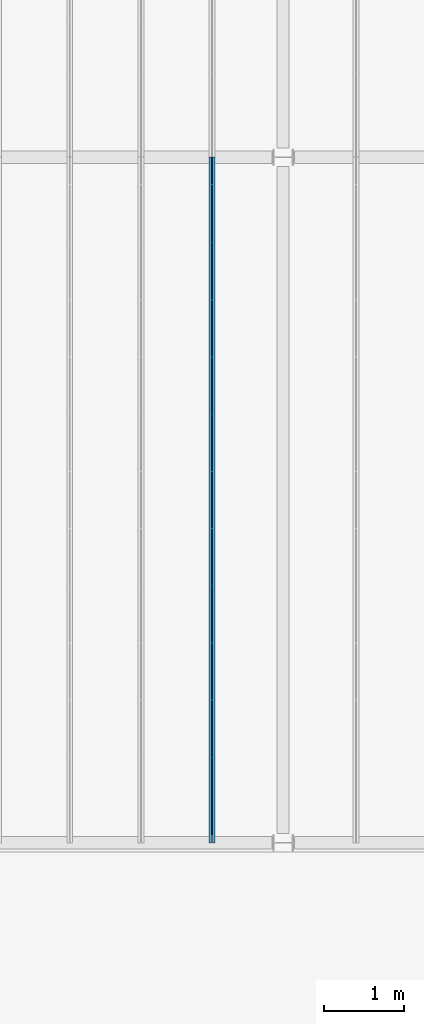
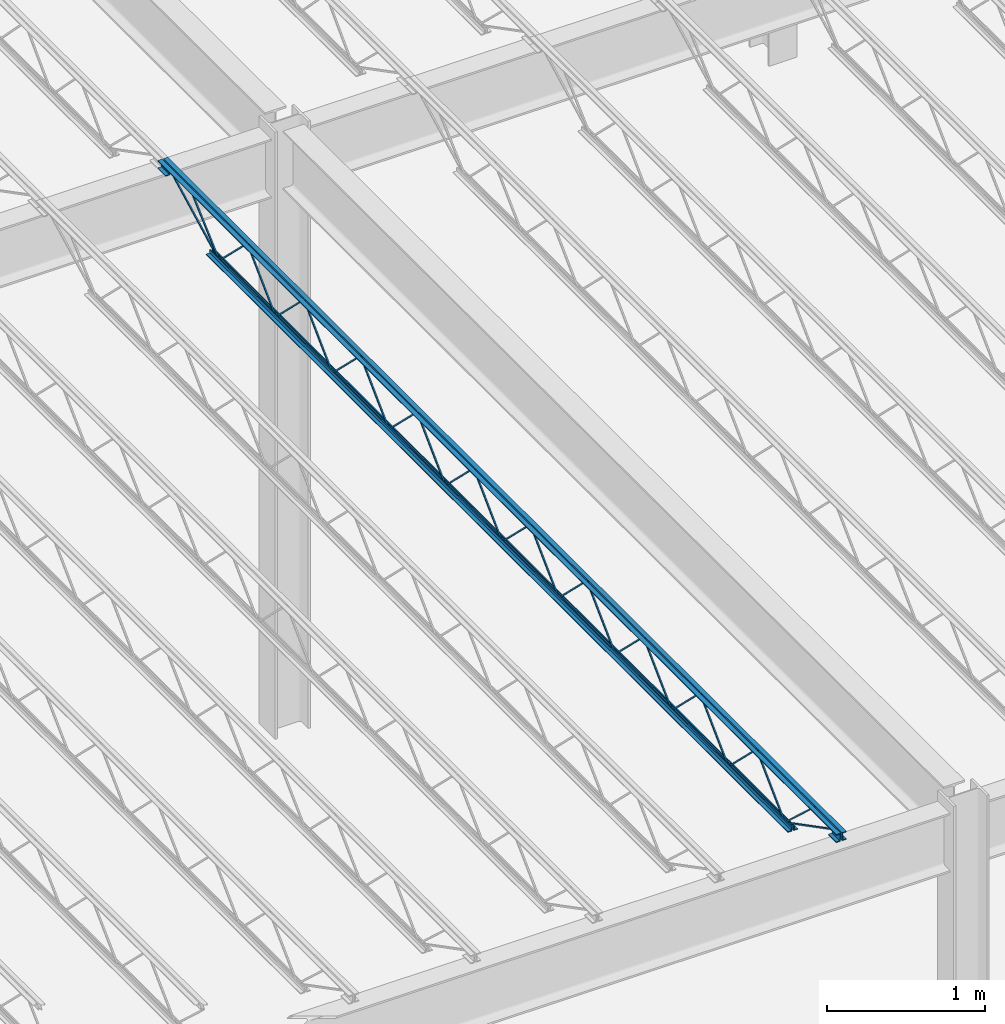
# One storey, part 39 of 119: 1 beam.
"""IFC2X3 building model written with IfcOpenShell, lengths in metres."""

from ifc_helpers import new_model, entity, si_unit, converted_unit, frame, origin, place, context, project, spatial, face_set, surface_model, element, save


model = new_model("IFC2X3")

# Units and contexts
model_context = context("Model", 3, precision=1e-09, world=origin())
plan_context = context("Plan", 3, precision=1e-09, world=origin())
ifc_project = project(units=[si_unit("LENGTHUNIT", "METRE"), si_unit("AREAUNIT", "SQUARE_METRE"), si_unit("VOLUMEUNIT", "CUBIC_METRE"), converted_unit("PLANEANGLEUNIT", "DEGREE", entity("IfcRatioMeasure", 0.01745329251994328), si_unit("PLANEANGLEUNIT", "RADIAN"), dimensions=[0, 0, 0, 0, 0, 0, 0]), si_unit("TIMEUNIT", "SECOND")], contexts=[model_context, plan_context])

# Site, building, storey
site_placement = place(None, origin())
site = spatial("IfcSite", under=ifc_project, at=site_placement, Name="Default", CompositionType="ELEMENT")
building_placement = place(site_placement, origin())
building = spatial("IfcBuilding", under=site, at=building_placement, CompositionType="ELEMENT")
storey_placement = place(building_placement, frame((0.0, 0.0, 4.570000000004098)))
storey = spatial("IfcBuildingStorey", under=building, at=storey_placement, Name="Second Floor", CompositionType="ELEMENT", Elevation=4.570000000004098)

# Beam
beam_placement = place(storey_placement, frame((-27.36550000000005, 10.04000000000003, 4.323999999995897), z_axis=(0.0, 0.0, 1.0), x_axis=(-1.0, 0.0, 0.0)))
element("IfcBeam", 1, at=beam_placement, inside=storey, Name="M_K-Series Bar Joist-Rod Web:14K1:14K1", ObjectType="M_K-Series Bar Joist-Rod Web:14K1", context=model_context, shape_type="SurfaceModel", body=[
    surface_model("IfcFaceBasedSurfaceModel", [(-0.03200000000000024, -2.141200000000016, 0.01110000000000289), (-0.04149999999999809, -2.141200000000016, 0.01110000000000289), (-0.04149999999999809, -2.141200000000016, 0.001600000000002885), (-0.03200000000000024, -2.141200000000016, 0.001600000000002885), (-0.04149999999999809, -2.139961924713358, 0.01110000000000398), (-0.03200000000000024, -2.139961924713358, 0.01110000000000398), (-0.04149999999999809, -2.136088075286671, 0.001600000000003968), (-0.04149999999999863, -1.785138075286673, 0.3449000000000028), (-0.04149999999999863, -1.782661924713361, 0.3449000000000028), (-0.04149999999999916, -1.431711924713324, 0.001600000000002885), (-0.04149999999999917, -1.426600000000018, 0.001600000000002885), (-0.04149999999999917, -1.426600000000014, 0.01110000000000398), (-0.04149999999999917, -1.427838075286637, 0.01110000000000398), (-0.04149999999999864, -1.778788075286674, 0.3544000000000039), (-0.04149999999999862, -1.78901192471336, 0.3544000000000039), (-0.03199999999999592, -2.136088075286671, 0.001600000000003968), (-0.03200000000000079, -1.785138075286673, 0.3449000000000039), (-0.03200000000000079, -1.782661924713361, 0.3449000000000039), (-0.03200000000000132, -1.431711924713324, 0.001600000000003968), (-0.03200000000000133, -1.426600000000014, 0.001600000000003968), (-0.03200000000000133, -1.426600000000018, 0.01110000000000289), (-0.03200000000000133, -1.427838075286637, 0.01110000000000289), (-0.03200000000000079, -1.778788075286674, 0.3544000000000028), (-0.03200000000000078, -1.78901192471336, 0.3544000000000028), (-0.03199999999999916, -2.855800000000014, 0.01110000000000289), (-0.04149999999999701, -2.855800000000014, 0.01110000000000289), (-0.04149999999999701, -2.855800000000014, 0.001600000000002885), (-0.03199999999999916, -2.855800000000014, 0.001600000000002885), (-0.04149999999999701, -2.85456192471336, 0.01110000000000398), (-0.03199999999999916, -2.85456192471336, 0.01110000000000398), (-0.04149999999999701, -2.850688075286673, 0.001600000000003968), (-0.04149999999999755, -2.499738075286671, 0.3449000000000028), (-0.04149999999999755, -2.497261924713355, 0.3449000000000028), (-0.04149999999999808, -2.146311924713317, 0.001600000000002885), (-0.04149999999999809, -2.141200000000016, 0.01110000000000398), (-0.04149999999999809, -2.14243807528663, 0.01110000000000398), (-0.04149999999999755, -2.493388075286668, 0.3544000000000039), (-0.04149999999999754, -2.503611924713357, 0.3544000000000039), (-0.03199999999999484, -2.850688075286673, 0.001600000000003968), (-0.0319999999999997, -2.499738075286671, 0.3449000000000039), (-0.0319999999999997, -2.497261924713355, 0.3449000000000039), (-0.03200000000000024, -2.146311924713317, 0.001600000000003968), (-0.03200000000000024, -2.141200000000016, 0.001600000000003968), (-0.03200000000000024, -2.14243807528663, 0.01110000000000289), (-0.03199999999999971, -2.493388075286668, 0.3544000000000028), (-0.0319999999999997, -2.503611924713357, 0.3544000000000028), (-0.03200000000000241, -3.570400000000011, 0.01110000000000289), (-0.04150000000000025, -3.570400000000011, 0.01110000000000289), (-0.04150000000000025, -3.570400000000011, 0.001600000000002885), (-0.03200000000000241, -3.570400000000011, 0.001600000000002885), (-0.04150000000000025, -3.569161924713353, 0.01110000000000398), (-0.03200000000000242, -3.569161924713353, 0.01110000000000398), (-0.04150000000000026, -3.565288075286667, 0.001600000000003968), (-0.04150000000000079, -3.214338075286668, 0.3449000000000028), (-0.04150000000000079, -3.211861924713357, 0.3449000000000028), (-0.04150000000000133, -2.86091192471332, 0.001600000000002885), (-0.04149999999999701, -2.855800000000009, 0.001600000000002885), (-0.04150000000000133, -2.855800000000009, 0.01110000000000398), (-0.04150000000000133, -2.857038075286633, 0.01110000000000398), (-0.0415000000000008, -3.20798807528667, 0.3544000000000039), (-0.04150000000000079, -3.218211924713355, 0.3544000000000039), (-0.03199999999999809, -3.565288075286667, 0.001600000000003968), (-0.03200000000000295, -3.214338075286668, 0.3449000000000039), (-0.03200000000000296, -3.211861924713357, 0.3449000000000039), (-0.03200000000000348, -2.86091192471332, 0.001600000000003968), (-0.03200000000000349, -2.855800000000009, 0.001600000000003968), (-0.03199999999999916, -2.855800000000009, 0.01110000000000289), (-0.03200000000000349, -2.857038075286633, 0.01110000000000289), (-0.03200000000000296, -3.20798807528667, 0.3544000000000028), (-0.03200000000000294, -3.218211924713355, 0.3544000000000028), (-0.03200000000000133, -4.285000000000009, 0.01110000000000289), (-0.04149999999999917, -4.285000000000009, 0.01110000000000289), (-0.04149999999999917, -4.285000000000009, 0.001600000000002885), (-0.03200000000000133, -4.285000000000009, 0.001600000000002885), (-0.04149999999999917, -4.283761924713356, 0.01110000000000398), (-0.03200000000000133, -4.283761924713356, 0.01110000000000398), (-0.04149999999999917, -4.279888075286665, 0.001600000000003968), (-0.0414999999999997, -3.928938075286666, 0.3449000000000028), (-0.04149999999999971, -3.92646192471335, 0.3449000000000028), (-0.04150000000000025, -3.575511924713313, 0.001600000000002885), (-0.04150000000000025, -3.570400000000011, 0.01110000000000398), (-0.04150000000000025, -3.571638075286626, 0.01110000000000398), (-0.04149999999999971, -3.922588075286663, 0.3544000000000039), (-0.0414999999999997, -3.932811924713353, 0.3544000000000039), (-0.031999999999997, -4.279888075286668, 0.001600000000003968), (-0.03200000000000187, -3.928938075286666, 0.3449000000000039), (-0.03200000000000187, -3.92646192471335, 0.3449000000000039), (-0.0320000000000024, -3.575511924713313, 0.001600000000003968), (-0.03200000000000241, -3.570400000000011, 0.001600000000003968), (-0.03200000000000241, -3.571638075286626, 0.01110000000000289), (-0.03200000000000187, -3.922588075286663, 0.3544000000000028), (-0.03200000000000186, -3.932811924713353, 0.3544000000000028), (-0.03200000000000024, -4.999600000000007, 0.01110000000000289), (-0.04149999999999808, -4.999600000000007, 0.01110000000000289), (-0.04149999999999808, -4.999600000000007, 0.001600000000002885), (-0.03200000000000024, -4.999600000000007, 0.001600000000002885), (-0.04149999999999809, -4.998361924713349, 0.01110000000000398), (-0.03200000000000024, -4.998361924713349, 0.01110000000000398), (-0.04149999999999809, -4.994488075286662, 0.001600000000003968), (-0.04149999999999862, -4.643538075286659, 0.3449000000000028), (-0.04149999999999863, -4.641061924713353, 0.3449000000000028), (-0.04149999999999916, -4.290111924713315, 0.001600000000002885), (-0.04149999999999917, -4.285000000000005, 0.001600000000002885), (-0.04149999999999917, -4.285000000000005, 0.01110000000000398), (-0.04149999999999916, -4.286238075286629, 0.01110000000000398), (-0.04149999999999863, -4.637188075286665, 0.3544000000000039), (-0.04149999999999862, -4.647411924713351, 0.3544000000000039), (-0.03199999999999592, -4.994488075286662, 0.001600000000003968), (-0.03200000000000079, -4.643538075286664, 0.3449000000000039), (-0.03200000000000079, -4.641061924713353, 0.3449000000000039), (-0.03200000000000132, -4.290111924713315, 0.001600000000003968), (-0.03200000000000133, -4.285000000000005, 0.001600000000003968), (-0.03200000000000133, -4.285000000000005, 0.01110000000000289), (-0.03200000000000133, -4.286238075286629, 0.01110000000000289), (-0.03200000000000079, -4.637188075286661, 0.3544000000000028), (-0.03200000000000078, -4.647411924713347, 0.3544000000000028), (-0.03200000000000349, -5.714200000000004, 0.01110000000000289), (-0.04150000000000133, -5.714200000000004, 0.01110000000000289), (-0.04150000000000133, -5.714200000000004, 0.001600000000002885), (-0.03200000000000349, -5.714200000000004, 0.001600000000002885), (-0.04150000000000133, -5.712961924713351, 0.01110000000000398), (-0.03200000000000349, -5.712961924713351, 0.01110000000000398), (-0.04149999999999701, -5.70908807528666, 0.001600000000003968), (-0.04149999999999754, -5.358138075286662, 0.3449000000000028), (-0.04149999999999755, -5.355661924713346, 0.3449000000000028), (-0.04149999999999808, -5.004711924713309, 0.001600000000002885), (-0.04150000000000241, -4.999600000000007, 0.01110000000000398), (-0.04150000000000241, -5.000838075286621, 0.01110000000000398), (-0.04150000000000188, -5.351788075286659, 0.3544000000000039), (-0.04150000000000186, -5.362011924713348, 0.3544000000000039), (-0.03199999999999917, -5.709088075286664, 0.001600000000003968), (-0.03200000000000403, -5.358138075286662, 0.3449000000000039), (-0.03200000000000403, -5.355661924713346, 0.3449000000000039), (-0.03200000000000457, -5.004711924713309, 0.001600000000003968), (-0.03200000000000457, -4.999600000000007, 0.001600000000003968), (-0.03200000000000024, -5.000838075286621, 0.01110000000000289), (-0.03199999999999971, -5.351788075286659, 0.3544000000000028), (-0.0319999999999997, -5.362011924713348, 0.3544000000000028), (-0.03200000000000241, -6.428800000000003, 0.01110000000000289), (-0.04150000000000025, -6.428800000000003, 0.01110000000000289), (-0.04150000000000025, -6.428800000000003, 0.001600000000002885), (-0.03200000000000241, -6.428800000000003, 0.001600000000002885), (-0.04150000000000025, -6.427561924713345, 0.01110000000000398), (-0.03200000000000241, -6.427561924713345, 0.01110000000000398), (-0.04150000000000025, -6.423688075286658, 0.001600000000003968), (-0.04150000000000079, -6.072738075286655, 0.3449000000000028), (-0.04150000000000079, -6.070261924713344, 0.3449000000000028), (-0.04150000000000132, -5.719311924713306, 0.001600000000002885), (-0.04150000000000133, -5.714200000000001, 0.001600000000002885), (-0.04150000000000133, -5.714200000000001, 0.01110000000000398), (-0.04150000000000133, -5.715438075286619, 0.01110000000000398), (-0.04150000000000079, -6.066388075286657, 0.3544000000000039), (-0.04150000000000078, -6.076611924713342, 0.3544000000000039), (-0.03199999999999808, -6.423688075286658, 0.001600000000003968), (-0.03200000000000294, -6.072738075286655, 0.3449000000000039), (-0.03200000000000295, -6.070261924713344, 0.3449000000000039), (-0.03200000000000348, -5.719311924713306, 0.001600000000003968), (-0.03200000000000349, -5.714200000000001, 0.001600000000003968), (-0.03200000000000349, -5.714200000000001, 0.01110000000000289), (-0.03200000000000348, -5.715438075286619, 0.01110000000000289), (-0.03200000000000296, -6.066388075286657, 0.3544000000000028), (-0.03200000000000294, -6.076611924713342, 0.3544000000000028), (-0.03200000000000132, -7.143399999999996, 0.01110000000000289), (-0.04149999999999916, -7.143399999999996, 0.01110000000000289), (-0.04149999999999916, -7.143399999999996, 0.001600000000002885), (-0.03200000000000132, -7.143399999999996, 0.001600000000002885), (-0.04149999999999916, -7.142161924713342, 0.01110000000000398), (-0.03200000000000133, -7.142161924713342, 0.01110000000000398), (-0.04149999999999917, -7.138288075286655, 0.001600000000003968), (-0.0414999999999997, -6.787338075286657, 0.3449000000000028), (-0.0414999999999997, -6.784861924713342, 0.3449000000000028), (-0.04150000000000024, -6.433911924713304, 0.001600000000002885), (-0.04150000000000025, -6.428799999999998, 0.001600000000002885), (-0.04150000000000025, -6.428799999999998, 0.01110000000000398), (-0.04150000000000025, -6.430038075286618, 0.01110000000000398), (-0.04149999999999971, -6.780988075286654, 0.3544000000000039), (-0.0414999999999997, -6.791211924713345, 0.3544000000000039), (-0.031999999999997, -7.138288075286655, 0.001600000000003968), (-0.03200000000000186, -6.787338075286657, 0.3449000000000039), (-0.03200000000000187, -6.784861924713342, 0.3449000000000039), (-0.0320000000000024, -6.433911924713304, 0.001600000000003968), (-0.03200000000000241, -6.428799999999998, 0.001600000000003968), (-0.03200000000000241, -6.428799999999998, 0.01110000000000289), (-0.0320000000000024, -6.430038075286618, 0.01110000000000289), (-0.03200000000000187, -6.780988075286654, 0.3544000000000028), (-0.03200000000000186, -6.791211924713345, 0.3544000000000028), (-0.03200000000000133, -1.426600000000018, 0.01109999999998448), (-0.04149999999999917, -1.426600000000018, 0.01109999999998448), (-0.04149999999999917, -1.426600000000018, 0.001599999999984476), (-0.03200000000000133, -1.426600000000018, 0.001599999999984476), (-0.04149999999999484, -1.425361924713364, 0.01109999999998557), (-0.031999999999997, -1.425361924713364, 0.01109999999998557), (-0.04149999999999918, -1.421488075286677, 0.001599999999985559), (-0.04149999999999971, -1.070538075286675, 0.3448999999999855), (-0.04149999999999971, -1.068061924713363, 0.3448999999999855), (-0.04150000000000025, -0.7171119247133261, 0.001599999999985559), (-0.04150000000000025, -0.7120000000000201, 0.001599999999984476), (-0.04150000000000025, -0.712000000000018, 0.01109999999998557), (-0.04150000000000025, -0.7132380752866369, 0.01109999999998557), (-0.04149999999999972, -1.064188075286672, 0.3543999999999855), (-0.0414999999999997, -1.074411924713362, 0.3543999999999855), (-0.031999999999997, -1.421488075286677, 0.001599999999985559), (-0.03199999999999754, -1.070538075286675, 0.3448999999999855), (-0.03199999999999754, -1.068061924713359, 0.3448999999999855), (-0.03199999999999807, -0.7171119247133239, 0.001599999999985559), (-0.03199999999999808, -0.712000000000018, 0.001599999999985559), (-0.03200000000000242, -0.7120000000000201, 0.01109999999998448), (-0.03199999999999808, -0.713238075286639, 0.01109999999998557), (-0.03199999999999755, -1.064188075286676, 0.3543999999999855), (-0.03199999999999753, -1.074411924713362, 0.3543999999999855), (-0.03200000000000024, -7.857999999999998, 0.01110000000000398), (-0.04149999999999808, -7.857999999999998, 0.01110000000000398), (-0.04149999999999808, -7.857999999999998, 0.001600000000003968), (-0.03200000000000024, -7.857999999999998, 0.001600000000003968), (-0.04149999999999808, -7.85676192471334, 0.01110000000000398), (-0.03200000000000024, -7.85676192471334, 0.01110000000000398), (-0.04149999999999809, -7.852888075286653, 0.001600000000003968), (-0.04149999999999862, -7.501938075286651, 0.3449000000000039), (-0.04149999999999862, -7.499461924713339, 0.3449000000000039), (-0.04149999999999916, -7.148511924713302, 0.001600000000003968), (-0.04149999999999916, -7.143399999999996, 0.001600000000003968), (-0.04149999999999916, -7.143399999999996, 0.01110000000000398), (-0.04149999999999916, -7.144638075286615, 0.01110000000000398), (-0.04149999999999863, -7.495588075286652, 0.3544000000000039), (-0.04149999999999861, -7.505811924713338, 0.3544000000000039), (-0.03199999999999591, -7.852888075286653, 0.001600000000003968), (-0.03200000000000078, -7.501938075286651, 0.3449000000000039), (-0.03200000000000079, -7.499461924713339, 0.3449000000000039), (-0.03200000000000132, -7.148511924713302, 0.001600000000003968), (-0.03200000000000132, -7.143399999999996, 0.001600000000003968), (-0.03200000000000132, -7.143399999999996, 0.01110000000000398), (-0.03200000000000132, -7.144638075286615, 0.01110000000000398), (-0.03200000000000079, -7.495588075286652, 0.3544000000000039), (-0.03200000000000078, -7.505811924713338, 0.3544000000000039), (-0.04150000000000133, 0.0, 0.3559999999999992), (-0.07350000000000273, 0.0, 0.3559999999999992), (-0.07350000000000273, 0.0, 0.3494999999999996), (-0.04799999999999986, 0.0, 0.3494999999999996), (-0.04799999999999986, 0.0, 0.3239999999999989), (-0.04150000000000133, 0.0, 0.3239999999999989), (-0.03200000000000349, 0.0, 0.3559999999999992), (-0.03200000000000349, 0.0, 0.3239999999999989), (-0.02550000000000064, 0.0, 0.3239999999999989), (-0.02550000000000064, 0.0, 0.3494999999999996), (0.0, 0.0, 0.3494999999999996), (0.0, 0.0, 0.3559999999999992), (-0.04149999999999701, -8.57, 0.3559999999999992), (-0.07349999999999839, -8.57, 0.3559999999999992), (-0.07349999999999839, -8.57, 0.3494999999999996), (-0.04799999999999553, -8.57, 0.3494999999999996), (-0.04799999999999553, -8.57, 0.3239999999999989), (-0.04149999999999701, -8.57, 0.3239999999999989), (-0.03199999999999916, -8.57, 0.3559999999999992), (-0.03199999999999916, -8.57, 0.3239999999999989), (-0.02549999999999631, -8.57, 0.3239999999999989), (-0.02549999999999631, -8.57, 0.3494999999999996), (0.0, -8.57, 0.3494999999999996), (0.0, -8.57, 0.3559999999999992), (-0.03199999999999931, -8.470000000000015, 0.2924999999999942), (0.0, -8.470000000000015, 0.2924999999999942), (0.0, -8.470000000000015, 0.2989999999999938), (-0.02550000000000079, -8.470000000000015, 0.2989999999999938), (-0.02550000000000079, -8.470000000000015, 0.3239999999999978), (-0.03199999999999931, -8.470000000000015, 0.3239999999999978), (-0.07349999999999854, -8.470000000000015, 0.2924999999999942), (-0.04149999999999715, -8.470000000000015, 0.2924999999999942), (-0.04149999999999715, -8.470000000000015, 0.3239999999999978), (-0.048, -8.470000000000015, 0.3239999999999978), (-0.048, -8.470000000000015, 0.2989999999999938), (-0.07349999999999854, -8.470000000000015, 0.2989999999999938), (-0.03199999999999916, -8.57, 0.2924999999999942), (0.0, -8.57, 0.2924999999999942), (0.0, -8.57, 0.2989999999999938), (-0.02550000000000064, -8.57, 0.2989999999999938), (-0.02550000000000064, -8.57, 0.3239999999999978), (-0.03199999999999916, -8.57, 0.3239999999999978), (-0.07349999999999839, -8.57, 0.2924999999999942), (-0.04149999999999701, -8.57, 0.2924999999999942), (-0.04149999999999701, -8.57, 0.3239999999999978), (-0.04799999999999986, -8.57, 0.3239999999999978), (-0.04799999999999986, -8.57, 0.2989999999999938), (-0.07349999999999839, -8.57, 0.2989999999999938), (-0.04150000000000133, 0.0, 0.2924999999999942), (-0.04150000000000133, 0.0, 0.3239999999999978), (-0.04800000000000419, 0.0, 0.3239999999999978), (-0.04800000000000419, 0.0, 0.2989999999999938), (-0.07350000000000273, 0.0, 0.2989999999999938), (-0.07350000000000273, 0.0, 0.2924999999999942), (-0.03200000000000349, 0.0, 0.2924999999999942), (0.0, 0.0, 0.2924999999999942), (0.0, 0.0, 0.2989999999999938), (-0.02550000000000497, 0.0, 0.2989999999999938), (-0.02550000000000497, 0.0, 0.3239999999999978), (-0.03200000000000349, 0.0, 0.3239999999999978), (-0.04150000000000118, -0.1000000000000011, 0.2924999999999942), (-0.04150000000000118, -0.1000000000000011, 0.3239999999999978), (-0.04800000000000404, -0.1000000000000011, 0.3239999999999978), (-0.04800000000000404, -0.1000000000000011, 0.2989999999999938), (-0.07350000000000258, -0.1000000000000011, 0.2989999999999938), (-0.07350000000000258, -0.1000000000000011, 0.2924999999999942), (-0.03200000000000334, -0.1000000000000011, 0.2924999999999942), (0.0, -0.1000000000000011, 0.2924999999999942), (0.0, -0.1000000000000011, 0.2989999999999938), (-0.02550000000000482, -0.1000000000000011, 0.2989999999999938), (-0.02550000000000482, -0.1000000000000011, 0.3239999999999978), (-0.03200000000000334, -0.1000000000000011, 0.3239999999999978), (-0.04150000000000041, -0.6119999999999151, 0.0), (-0.04150000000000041, -0.6119999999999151, 0.03199999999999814), (-0.04799999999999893, -0.6119999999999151, 0.03199999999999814), (-0.04799999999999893, -0.6119999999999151, 0.006499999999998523), (-0.0735000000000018, -0.6119999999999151, 0.006499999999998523), (-0.0735000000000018, -0.6119999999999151, 0.0), (-0.03200000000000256, -0.6119999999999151, 0.0), (0.0, -0.6119999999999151, 0.0), (0.0, -0.6119999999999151, 0.006499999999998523), (-0.02549999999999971, -0.6119999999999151, 0.006499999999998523), (-0.02549999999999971, -0.6119999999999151, 0.03199999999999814), (-0.03200000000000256, -0.6119999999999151, 0.03199999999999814), (-0.04149999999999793, -7.957999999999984, 0.0), (-0.04149999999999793, -7.957999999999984, 0.03199999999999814), (-0.04799999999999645, -7.957999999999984, 0.03199999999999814), (-0.04799999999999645, -7.957999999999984, 0.006499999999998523), (-0.07349999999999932, -7.957999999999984, 0.006499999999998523), (-0.07349999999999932, -7.957999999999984, 0.0), (-0.03200000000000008, -7.957999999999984, 0.0), (0.0, -7.957999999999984, 0.0), (0.0, -7.957999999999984, 0.006499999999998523), (-0.02549999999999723, -7.957999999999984, 0.006499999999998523), (-0.02549999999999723, -7.957999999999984, 0.03199999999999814), (-0.03200000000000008, -7.957999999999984, 0.03199999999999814), (-0.03200000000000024, -7.855811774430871, 0.01056594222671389), (-0.04149999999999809, -7.855811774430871, 0.01056594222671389), (-0.04149999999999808, -7.860188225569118, 0.002134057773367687), (-0.03200000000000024, -7.860188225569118, 0.00213405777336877), (-0.03199999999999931, -8.4688407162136, 0.3287499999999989), (-0.03199999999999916, -8.57, 0.3287499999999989), (-0.03199999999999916, -8.569999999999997, 0.3192499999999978), (-0.03199999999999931, -8.471159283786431, 0.3192499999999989), (-0.04150000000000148, -8.471159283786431, 0.3192499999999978), (-0.04149999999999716, -8.4688407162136, 0.3287499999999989), (-0.04149999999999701, -8.569999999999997, 0.3287499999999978), (-0.04149999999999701, -8.57, 0.3192499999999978), (-0.03199999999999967, -8.23525714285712, 0.3417000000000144), (-0.04149999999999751, -8.23525714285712, 0.3417000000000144), (-0.04149999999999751, -8.23525714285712, 0.3322000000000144), (-0.03199999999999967, -8.23525714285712, 0.3322000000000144), (-0.04149999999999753, -8.220724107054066, 0.3417000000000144), (-0.03199999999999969, -8.220724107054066, 0.3417000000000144), (-0.04149999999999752, -8.224390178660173, 0.3322000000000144), (-0.04149999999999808, -7.861190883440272, 0.002831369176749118), (-0.04149999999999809, -7.854809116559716, 0.009868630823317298), (-0.03199999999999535, -8.224390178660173, 0.3322000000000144), (-0.03200000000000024, -7.861190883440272, 0.002831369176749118), (-0.03200000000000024, -7.854809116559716, 0.009868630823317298), (-0.03200000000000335, -0.09781177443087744, 0.3197840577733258), (-0.03200000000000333, -0.1021882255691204, 0.328215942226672), (-0.04150000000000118, -0.1021882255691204, 0.328215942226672), (-0.04150000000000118, -0.09781177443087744, 0.3197840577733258), (-0.03200000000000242, -0.7098117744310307, 0.002134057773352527), (-0.03200000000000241, -0.7141882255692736, 0.01056594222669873), (-0.04150000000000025, -0.7141882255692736, 0.01056594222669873), (-0.04150000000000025, -0.7098117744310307, 0.002134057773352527), (-0.03200000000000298, -0.336963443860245, 0.3461600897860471), (-0.03200000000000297, -0.3434079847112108, 0.3531399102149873), (-0.04150000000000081, -0.3434079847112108, 0.3531399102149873), (-0.04150000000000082, -0.336963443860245, 0.3461600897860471), (-0.03200000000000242, -0.7087777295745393, 0.00286008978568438), (-0.03200000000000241, -0.7152222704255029, 0.009839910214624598), (-0.04150000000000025, -0.7152222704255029, 0.009839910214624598), (-0.04150000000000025, -0.7087777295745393, 0.00286008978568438)], [face_set([[[0, 1, 2, 3]], [[1, 4, 5, 0]], [[2, 6, 7, 8, 9, 10, 11, 12, 13, 14, 4, 1]], [[3, 2, 6, 15]], [[0, 3, 15, 16, 17, 18, 19, 20, 21, 22, 23, 5]], [[4, 5, 23, 14]], [[15, 16, 7, 6]], [[14, 13, 22, 23]], [[16, 7, 8, 17]], [[13, 12, 21, 22]], [[17, 8, 9, 18]], [[20, 11, 10, 19]], [[12, 11, 20, 21]], [[18, 9, 10, 19]]]), face_set([[[24, 25, 26, 27]], [[25, 28, 29, 24]], [[26, 30, 31, 32, 33, 2, 34, 35, 36, 37, 28, 25]], [[27, 26, 30, 38]], [[24, 27, 38, 39, 40, 41, 42, 0, 43, 44, 45, 29]], [[28, 29, 45, 37]], [[38, 39, 31, 30]], [[37, 36, 44, 45]], [[39, 31, 32, 40]], [[36, 35, 43, 44]], [[40, 32, 33, 41]], [[0, 34, 2, 42]], [[35, 34, 0, 43]], [[41, 33, 2, 42]]]), face_set([[[46, 47, 48, 49]], [[47, 50, 51, 46]], [[48, 52, 53, 54, 55, 56, 57, 58, 59, 60, 50, 47]], [[49, 48, 52, 61]], [[46, 49, 61, 62, 63, 64, 65, 66, 67, 68, 69, 51]], [[50, 51, 69, 60]], [[61, 62, 53, 52]], [[60, 59, 68, 69]], [[62, 53, 54, 63]], [[59, 58, 67, 68]], [[63, 54, 55, 64]], [[66, 57, 56, 65]], [[58, 57, 66, 67]], [[64, 55, 56, 65]]]), face_set([[[70, 71, 72, 73]], [[71, 74, 75, 70]], [[72, 76, 77, 78, 79, 48, 80, 81, 82, 83, 74, 71]], [[73, 72, 76, 84]], [[70, 73, 84, 85, 86, 87, 88, 46, 89, 90, 91, 75]], [[74, 75, 91, 83]], [[84, 85, 77, 76]], [[83, 82, 90, 91]], [[85, 77, 78, 86]], [[82, 81, 89, 90]], [[86, 78, 79, 87]], [[46, 80, 48, 88]], [[81, 80, 46, 89]], [[87, 79, 48, 88]]]), face_set([[[92, 93, 94, 95]], [[93, 96, 97, 92]], [[94, 98, 99, 100, 101, 102, 103, 104, 105, 106, 96, 93]], [[95, 94, 98, 107]], [[92, 95, 107, 108, 109, 110, 111, 112, 113, 114, 115, 97]], [[96, 97, 115, 106]], [[107, 108, 99, 98]], [[106, 105, 114, 115]], [[108, 99, 100, 109]], [[105, 104, 113, 114]], [[109, 100, 101, 110]], [[112, 103, 102, 111]], [[104, 103, 112, 113]], [[110, 101, 102, 111]]]), face_set([[[116, 117, 118, 119]], [[117, 120, 121, 116]], [[118, 122, 123, 124, 125, 94, 126, 127, 128, 129, 120, 117]], [[119, 118, 122, 130]], [[116, 119, 130, 131, 132, 133, 134, 92, 135, 136, 137, 121]], [[120, 121, 137, 129]], [[130, 131, 123, 122]], [[129, 128, 136, 137]], [[131, 123, 124, 132]], [[128, 127, 135, 136]], [[132, 124, 125, 133]], [[92, 126, 94, 134]], [[127, 126, 92, 135]], [[133, 125, 94, 134]]]), face_set([[[138, 139, 140, 141]], [[139, 142, 143, 138]], [[140, 144, 145, 146, 147, 148, 149, 150, 151, 152, 142, 139]], [[141, 140, 144, 153]], [[138, 141, 153, 154, 155, 156, 157, 158, 159, 160, 161, 143]], [[142, 143, 161, 152]], [[153, 154, 145, 144]], [[152, 151, 160, 161]], [[154, 145, 146, 155]], [[151, 150, 159, 160]], [[155, 146, 147, 156]], [[158, 149, 148, 157]], [[150, 149, 158, 159]], [[156, 147, 148, 157]]]), face_set([[[162, 163, 164, 165]], [[163, 166, 167, 162]], [[164, 168, 169, 170, 171, 172, 173, 174, 175, 176, 166, 163]], [[165, 164, 168, 177]], [[162, 165, 177, 178, 179, 180, 181, 182, 183, 184, 185, 167]], [[166, 167, 185, 176]], [[177, 178, 169, 168]], [[176, 175, 184, 185]], [[178, 169, 170, 179]], [[175, 174, 183, 184]], [[179, 170, 171, 180]], [[182, 173, 172, 181]], [[174, 173, 182, 183]], [[180, 171, 172, 181]]]), face_set([[[186, 187, 188, 189]], [[187, 190, 191, 186]], [[188, 192, 193, 194, 195, 196, 197, 198, 199, 200, 190, 187]], [[189, 188, 192, 201]], [[186, 189, 201, 202, 203, 204, 205, 206, 207, 208, 209, 191]], [[190, 191, 209, 200]], [[201, 202, 193, 192]], [[200, 199, 208, 209]], [[202, 193, 194, 203]], [[199, 198, 207, 208]], [[203, 194, 195, 204]], [[206, 197, 196, 205]], [[198, 197, 206, 207]], [[204, 195, 196, 205]]]), face_set([[[210, 211, 212, 213]], [[211, 214, 215, 210]], [[212, 216, 217, 218, 219, 220, 221, 222, 223, 224, 214, 211]], [[213, 212, 216, 225]], [[210, 213, 225, 226, 227, 228, 229, 230, 231, 232, 233, 215]], [[214, 215, 233, 224]], [[225, 226, 217, 216]], [[224, 223, 232, 233]], [[226, 217, 218, 227]], [[223, 222, 231, 232]], [[227, 218, 219, 228]], [[230, 221, 220, 229]], [[222, 221, 230, 231]], [[228, 219, 220, 229]]]), face_set([[[234, 235, 236, 237, 238, 239]], [[240, 241, 242, 243, 244, 245]], [[246, 247, 248, 249, 250, 251]], [[252, 253, 254, 255, 256, 257]], [[239, 234, 246, 251]], [[238, 239, 251, 250]], [[237, 249, 250, 238]], [[236, 237, 249, 248]], [[235, 247, 248, 236]], [[234, 246, 247, 235]], [[245, 257, 252, 240]], [[244, 245, 257, 256]], [[243, 244, 256, 255]], [[242, 243, 255, 254]], [[241, 242, 254, 253]], [[240, 252, 253, 241]]]), face_set([[[258, 259, 260, 261, 262, 263]], [[264, 265, 266, 267, 268, 269]], [[270, 271, 272, 273, 274, 275]], [[276, 277, 278, 279, 280, 281]], [[263, 275, 270, 258]], [[262, 274, 275, 263]], [[261, 262, 274, 273]], [[260, 272, 273, 261]], [[259, 260, 272, 271]], [[258, 259, 271, 270]], [[269, 281, 276, 264]], [[268, 280, 281, 269]], [[267, 279, 280, 268]], [[266, 278, 279, 267]], [[265, 266, 278, 277]], [[264, 265, 277, 276]]]), face_set([[[282, 283, 284, 285, 286, 287]], [[288, 289, 290, 291, 292, 293]], [[294, 295, 296, 297, 298, 299]], [[300, 301, 302, 303, 304, 305]], [[287, 282, 294, 299]], [[286, 298, 299, 287]], [[285, 297, 298, 286]], [[284, 296, 297, 285]], [[283, 295, 296, 284]], [[282, 283, 295, 294]], [[293, 305, 300, 288]], [[292, 304, 305, 293]], [[291, 292, 304, 303]], [[290, 302, 303, 291]], [[289, 290, 302, 301]], [[288, 289, 301, 300]]]), face_set([[[306, 307, 308, 309, 310, 311]], [[312, 313, 314, 315, 316, 317]], [[318, 319, 320, 321, 322, 323]], [[324, 325, 326, 327, 328, 329]], [[311, 306, 318, 323]], [[310, 322, 323, 311]], [[309, 321, 322, 310]], [[308, 320, 321, 309]], [[307, 319, 320, 308]], [[306, 307, 319, 318]], [[317, 329, 324, 312]], [[316, 328, 329, 317]], [[315, 316, 328, 327]], [[314, 326, 327, 315]], [[313, 314, 326, 325]], [[312, 313, 325, 324]]]), face_set([[[330, 331, 332, 333]], [[333, 330, 334, 335, 336, 337]], [[332, 333, 337, 338]], [[331, 339, 340, 341, 338, 332]], [[330, 334, 339, 331]], [[335, 340, 341, 336]], [[338, 337, 336, 341]], [[334, 335, 340, 339]]]), face_set([[[342, 343, 344, 345]], [[343, 346, 347, 342]], [[344, 348, 349, 350, 346, 343]], [[345, 344, 348, 351]], [[342, 345, 351, 352, 353, 347]], [[353, 350, 349, 352]], [[346, 350, 353, 347]], [[351, 348, 349, 352]]]), face_set([[[354, 355, 356, 357]], [[358, 359, 360, 361]], [[357, 354, 358, 361]], [[356, 360, 361, 357]], [[355, 359, 360, 356]], [[354, 355, 359, 358]]]), face_set([[[362, 363, 364, 365]], [[366, 367, 368, 369]], [[365, 369, 366, 362]], [[364, 368, 369, 365]], [[363, 364, 368, 367]], [[362, 363, 367, 366]]])]),
])

save(model, "model.ifc")
